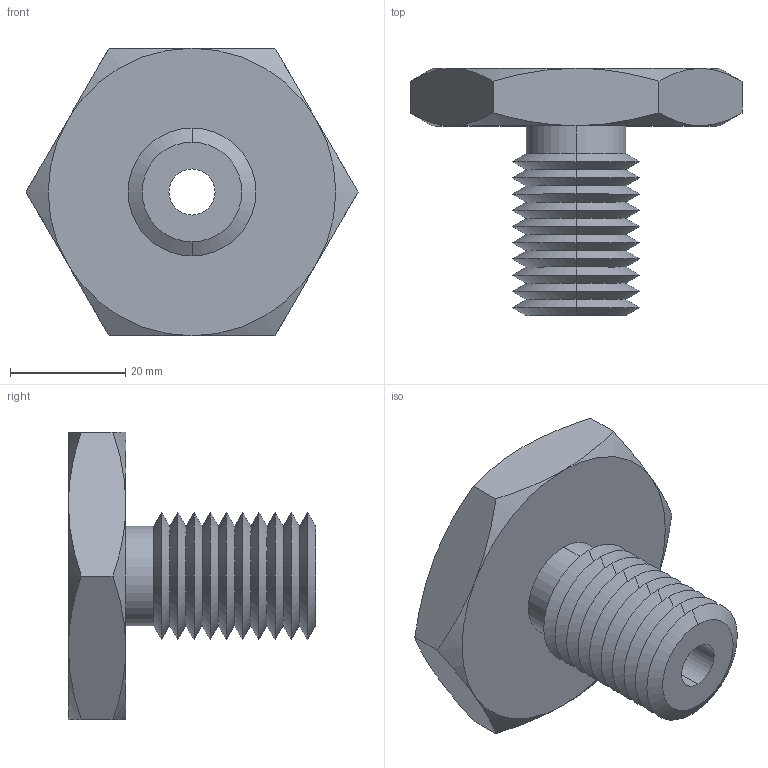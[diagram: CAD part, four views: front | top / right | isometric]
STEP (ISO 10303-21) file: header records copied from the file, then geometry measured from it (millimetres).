
FILE_DESCRIPTION (( 'STEP AP203' ), '1' );
FILE_NAME ('63302.W5088_M8x1,25.step', '2013-12-08T11:35:46', ( 'User' ), ( '' ), 'SwSTEP 2.0', 'SolidWorks 2009', '' );
FILE_SCHEMA (( 'CONFIG_CONTROL_DESIGN' ));
Length unit declared in the file: millimetre
Products named in the file (1): 63302.W5088_M8x1,25
Bounding box: 57.73 x 43 x 50 mm (x, y, z)
Volume: 29046.6 mm3; surface area: 10590.7 mm2
Topology: 1 solids, 1 shells, 67 faces, 138 edges, 74 vertices
Faces by surface type: cone 54, plane 9, cylinder 4
Entity records: 1939 total; most frequent: CARTESIAN_POINT 464, DIRECTION 312, ORIENTED_EDGE 276, EDGE_CURVE 138, AXIS2_PLACEMENT_3D 130, VERTEX_POINT 74, EDGE_LOOP 70, ADVANCED_FACE 67
